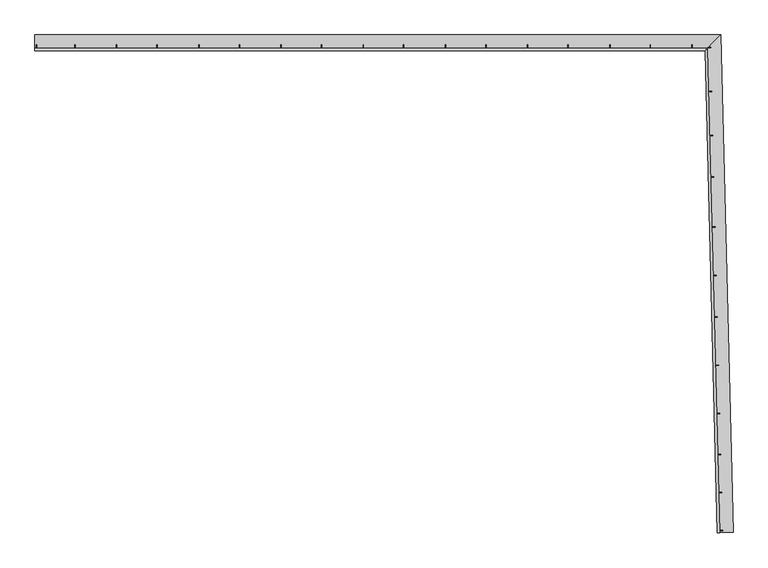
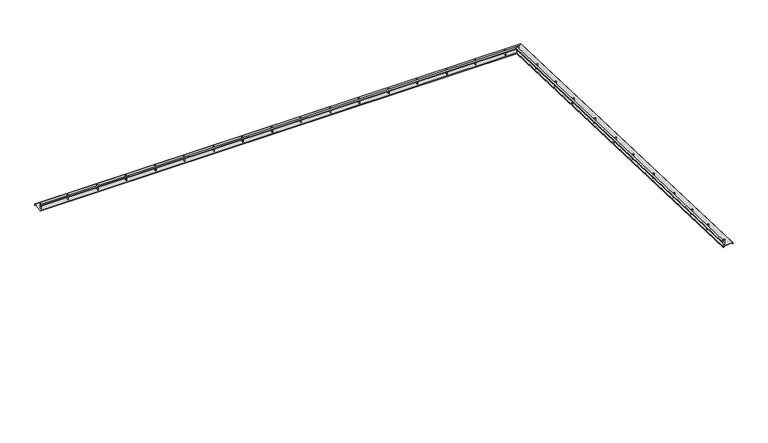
"""IFC4 building model written with IfcOpenShell, lengths in millimetres: railing geometry, Garde-corps 12 : Garde-corps 12."""

from ifc_helpers import new_model, si_unit, frame, origin, place, context, project, spatial, polyline, circle_curve, ellipse_curve, outline, extrude, faceted_brep, source, transform, mapped, element, save
from ifc_brep_helpers import plane_surface, cylinder_surface, advanced_brep


def railing_0156e3af(model_context):
    return source(origin(), model_context, "Body", "SolidModel", [
        extrude(outline(polyline([(26169.8357506, 10451.1798097), (26159.8357506, 10451.1798097), (26159.8357506, 10501.1798097), (26169.8357506, 10501.1798097), (26169.8357506, 10451.1798097)])), frame((0.0, 0.0, 6832.3587747), z_axis=(0.0, 0.0, 1.0), x_axis=(1.0, 0.0, 0.0)), (0.0, 0.0, 1.0), 157.6412253),
        extrude(outline(polyline([(25269.8357506, 10451.1798097), (25259.8357506, 10451.1798097), (25259.8357506, 10501.1798097), (25269.8357506, 10501.1798097), (25269.8357506, 10451.1798097)])), frame((0.0, 0.0, 6832.3587747), z_axis=(0.0, 0.0, 1.0), x_axis=(1.0, 0.0, 0.0)), (0.0, 0.0, 1.0), 157.6412253),
        extrude(outline(polyline([(24396.5357506, 10451.1798097), (24386.5357506, 10451.1798097), (24386.5357506, 10501.1798097), (24396.5357506, 10501.1798097), (24396.5357506, 10451.1798097)])), frame((0.0, 0.0, 6832.3587747), z_axis=(0.0, 0.0, 1.0), x_axis=(1.0, 0.0, 0.0)), (0.0, 0.0, 1.0), 157.6412253),
        extrude(outline(polyline([(23496.5357506, 10451.1798097), (23486.5357506, 10451.1798097), (23486.5357506, 10501.1798097), (23496.5357506, 10501.1798097), (23496.5357506, 10451.1798097)])), frame((0.0, 0.0, 6832.3587747), z_axis=(0.0, 0.0, 1.0), x_axis=(1.0, 0.0, 0.0)), (0.0, 0.0, 1.0), 157.6412253),
        extrude(outline(polyline([(22623.2357506, 10451.1798097), (22613.2357506, 10451.1798097), (22613.2357506, 10501.1798097), (22623.2357506, 10501.1798097), (22623.2357506, 10451.1798097)])), frame((0.0, 0.0, 6832.3587747), z_axis=(0.0, 0.0, 1.0), x_axis=(1.0, 0.0, 0.0)), (0.0, 0.0, 1.0), 157.6412253),
        extrude(outline(polyline([(21723.2357506, 10451.1798097), (21713.2357506, 10451.1798097), (21713.2357506, 10501.1798097), (21723.2357506, 10501.1798097), (21723.2357506, 10451.1798097)])), frame((0.0, 0.0, 6832.3587747), z_axis=(0.0, 0.0, 1.0), x_axis=(1.0, 0.0, 0.0)), (0.0, 0.0, 1.0), 157.6412253),
        extrude(outline(polyline([(20849.9357506, 10451.1798097), (20839.9357506, 10451.1798097), (20839.9357506, 10501.1798097), (20849.9357506, 10501.1798097), (20849.9357506, 10451.1798097)])), frame((0.0, 0.0, 6832.3587747), z_axis=(0.0, 0.0, 1.0), x_axis=(1.0, 0.0, 0.0)), (0.0, 0.0, 1.0), 157.6412253),
        extrude(outline(polyline([(19949.9357506, 10451.1798097), (19939.9357506, 10451.1798097), (19939.9357506, 10501.1798097), (19949.9357506, 10501.1798097), (19949.9357506, 10451.1798097)])), frame((0.0, 0.0, 6832.3587747), z_axis=(0.0, 0.0, 1.0), x_axis=(1.0, 0.0, 0.0)), (0.0, 0.0, 1.0), 157.6412253),
        extrude(outline(polyline([(19076.6357506, 10451.1798097), (19066.6357506, 10451.1798097), (19066.6357506, 10501.1798097), (19076.6357506, 10501.1798097), (19076.6357506, 10451.1798097)])), frame((0.0, 0.0, 6832.3587747), z_axis=(0.0, 0.0, 1.0), x_axis=(1.0, 0.0, 0.0)), (0.0, 0.0, 1.0), 157.6412253),
        extrude(outline(polyline([(18176.6357506, 10451.1798097), (18166.6357506, 10451.1798097), (18166.6357506, 10501.1798097), (18176.6357506, 10501.1798097), (18176.6357506, 10451.1798097)])), frame((0.0, 0.0, 6832.3587747), z_axis=(0.0, 0.0, 1.0), x_axis=(1.0, 0.0, 0.0)), (0.0, 0.0, 1.0), 157.6412253),
        extrude(outline(polyline([(17303.3357506, 10451.1798097), (17293.3357506, 10451.1798097), (17293.3357506, 10501.1798097), (17303.3357506, 10501.1798097), (17303.3357506, 10451.1798097)])), frame((0.0, 0.0, 6832.3587747), z_axis=(0.0, 0.0, 1.0), x_axis=(1.0, 0.0, 0.0)), (0.0, 0.0, 1.0), 157.6412253),
        extrude(outline(polyline([(16403.3357506, 10451.1798097), (16393.3357506, 10451.1798097), (16393.3357506, 10501.1798097), (16403.3357506, 10501.1798097), (16403.3357506, 10451.1798097)])), frame((0.0, 0.0, 6832.3587747), z_axis=(0.0, 0.0, 1.0), x_axis=(1.0, 0.0, 0.0)), (0.0, 0.0, 1.0), 157.6412253),
        extrude(outline(polyline([(15530.0357506, 10451.1798097), (15520.0357506, 10451.1798097), (15520.0357506, 10501.1798097), (15530.0357506, 10501.1798097), (15530.0357506, 10451.1798097)])), frame((0.0, 0.0, 6832.3587747), z_axis=(0.0, 0.0, 1.0), x_axis=(1.0, 0.0, 0.0)), (0.0, 0.0, 1.0), 157.6412253),
        extrude(outline(polyline([(14630.0357506, 10451.1798097), (14620.0357506, 10451.1798097), (14620.0357506, 10501.1798097), (14630.0357506, 10501.1798097), (14630.0357506, 10451.1798097)])), frame((0.0, 0.0, 6832.3587747), z_axis=(0.0, 0.0, 1.0), x_axis=(1.0, 0.0, 0.0)), (0.0, 0.0, 1.0), 157.6412253),
        extrude(outline(polyline([(13756.7357506, 10451.1798097), (13746.7357506, 10451.1798097), (13746.7357506, 10501.1798097), (13756.7357506, 10501.1798097), (13756.7357506, 10451.1798097)])), frame((0.0, 0.0, 6832.3587747), z_axis=(0.0, 0.0, 1.0), x_axis=(1.0, 0.0, 0.0)), (0.0, 0.0, 1.0), 157.6412253),
        extrude(outline(polyline([(12856.7357506, 10451.1798097), (12846.7357506, 10451.1798097), (12846.7357506, 10501.1798097), (12856.7357506, 10501.1798097), (12856.7357506, 10451.1798097)])), frame((0.0, 0.0, 6832.3587747), z_axis=(0.0, 0.0, 1.0), x_axis=(1.0, 0.0, 0.0)), (0.0, 0.0, 1.0), 157.6412253),
        extrude(outline(polyline([(12029.6373012, 10451.1798097), (12019.6373012, 10451.1798097), (12019.6373012, 10501.1798097), (12029.6373012, 10501.1798097), (12029.6373012, 10451.1798097)])), frame((0.0, 0.0, 6832.3587747), z_axis=(0.0, 0.0, 1.0), x_axis=(1.0, 0.0, 0.0)), (0.0, 0.0, 1.0), 157.6412253),
        extrude(outline(polyline([(26739.0073733, 1654.328646), (26738.7574514, 1664.3255225), (26788.7418337, 1665.575132), (26788.9917556, 1655.5782555), (26739.0073733, 1654.328646)])), frame((0.0, 0.0, 6832.3587747), z_axis=(0.0, 0.0, 1.0), x_axis=(1.0, 0.0, 0.0)), (0.0, 0.0, 1.0), 158.7813053),
        extrude(outline(polyline([(26779.9468021, 16.7514946), (26779.6968802, 26.7483711), (26829.6812625, 27.9979806), (26829.9311844, 18.0011042), (26779.9468021, 16.7514946)])), frame((0.0, 0.0, 6832.3587747), z_axis=(0.0, 0.0, 1.0), x_axis=(1.0, 0.0, 0.0)), (0.0, 0.0, 1.0), 158.7813053),
        extrude(outline(polyline([(26716.7643232, 2544.0506513), (26716.5144012, 2554.0475278), (26766.4987836, 2555.2971373), (26766.7487055, 2545.3002609), (26716.7643232, 2544.0506513)])), frame((0.0, 0.0, 6832.3587747), z_axis=(0.0, 0.0, 1.0), x_axis=(1.0, 0.0, 0.0)), (0.0, 0.0, 1.0), 158.7813053),
        extrude(outline(polyline([(26664.7807217, 4623.3947087), (26664.5307998, 4633.3915852), (26714.5151821, 4634.6411948), (26714.765104, 4624.6443183), (26664.7807217, 4623.3947087)])), frame((0.0, 0.0, 6832.3587747), z_axis=(0.0, 0.0, 1.0), x_axis=(1.0, 0.0, 0.0)), (0.0, 0.0, 1.0), 158.7813053),
        extrude(outline(polyline([(26642.2877497, 5523.1135905), (26642.0378278, 5533.110467), (26692.0222101, 5534.3600765), (26692.272132, 5524.3632001), (26642.2877497, 5523.1135905)])), frame((0.0, 0.0, 6832.3587747), z_axis=(0.0, 0.0, 1.0), x_axis=(1.0, 0.0, 0.0)), (0.0, 0.0, 1.0), 158.7813053),
        extrude(outline(polyline([(26589.3041482, 7642.457648), (26589.0542263, 7652.4545244), (26639.0386086, 7653.704134), (26639.2885306, 7643.7072575), (26589.3041482, 7642.457648)])), frame((0.0, 0.0, 6832.3587747), z_axis=(0.0, 0.0, 1.0), x_axis=(1.0, 0.0, 0.0)), (0.0, 0.0, 1.0), 158.7813053),
        extrude(outline(polyline([(26566.8111762, 8542.1765297), (26566.5612543, 8552.1734062), (26616.5456366, 8553.4230158), (26616.7955585, 8543.4261393), (26566.8111762, 8542.1765297)])), frame((0.0, 0.0, 6832.3587747), z_axis=(0.0, 0.0, 1.0), x_axis=(1.0, 0.0, 0.0)), (0.0, 0.0, 1.0), 158.7813053),
        extrude(outline(polyline([(26519.326013, 10441.5830579), (26519.0760911, 10451.5799344), (26569.0604734, 10452.8295439), (26569.3103953, 10442.8326675), (26519.326013, 10441.5830579)])), frame((0.0, 0.0, 6832.3587747), z_axis=(0.0, 0.0, 1.0), x_axis=(1.0, 0.0, 0.0)), (0.0, 0.0, 1.0), 158.7813053),
        extrude(outline(polyline([(26690.7725224, 3583.72268), (26690.5226005, 3593.7195565), (26740.5069828, 3594.969166), (26740.7569048, 3584.9722896), (26690.7725224, 3583.72268)])), frame((0.0, 0.0, 6832.3587747), z_axis=(0.0, 0.0, 1.0), x_axis=(1.0, 0.0, 0.0)), (0.0, 0.0, 1.0), 158.7813053),
        extrude(outline(polyline([(26616.2958709, 6562.7887428), (26616.045949, 6572.7856192), (26666.0303313, 6574.0352288), (26666.2802532, 6564.0383523), (26616.2958709, 6562.7887428)])), frame((0.0, 0.0, 6832.3587747), z_axis=(0.0, 0.0, 1.0), x_axis=(1.0, 0.0, 0.0)), (0.0, 0.0, 1.0), 158.7813053),
        extrude(outline(polyline([(26543.0685946, 9491.8797938), (26542.8186727, 9501.8766703), (26592.803055, 9503.1262799), (26593.0529769, 9493.1294034), (26543.0685946, 9491.8797938)])), frame((0.0, 0.0, 6832.3587747), z_axis=(0.0, 0.0, 1.0), x_axis=(1.0, 0.0, 0.0)), (0.0, 0.0, 1.0), 158.7813053),
        extrude(outline(polyline([(26759.4770877, 835.5400703), (26759.2271658, 845.5369468), (26809.2115481, 846.7865563), (26809.46147, 836.7896799), (26759.4770877, 835.5400703)])), frame((0.0, 0.0, 6832.3587747), z_axis=(0.0, 0.0, 1.0), x_axis=(1.0, 0.0, 0.0)), (0.0, 0.0, 1.0), 158.7813053),
        faceted_brep([(26761.0662175, -26.2494266, 6811.6891365), (27050.9250252, -19.0029564, 6832.3587747), (27050.9250252, -19.0029564, 6782.3587747), (27051.9247128, -18.9779642, 6782.3587747), (27051.9247128, -18.9779642, 6833.4325995), (26760.0665298, -26.2744188, 6812.6203871), (26760.0665298, -26.2744188, 6781.6891365), (26761.0662175, -26.2494266, 6781.6891365), (26499.7510969, 10426.3553963, 6811.6891365), (26782.542332, 10716.3047707, 6832.3587747), (26782.542332, 10716.3047707, 6782.3587747), (11987.3716397, 10716.3047707, 6782.3587747), (11987.3716397, 10717.3047707, 6782.3587747), (26783.5176444, 10717.3047707, 6782.3587747), (26783.5176444, 10717.3047707, 6833.4325995), (26498.7757844, 10425.3553963, 6812.6203871), (26498.7757844, 10425.3553963, 6781.6891365), (11987.3716397, 10425.3553963, 6781.6891365), (11987.3716397, 10426.3553963, 6781.6891365), (26499.7510969, 10426.3553963, 6781.6891365), (11987.3716397, 10426.3553963, 6811.6891365), (11987.3716397, 10425.3553963, 6812.6203871), (11987.3716397, 10717.3047707, 6833.4325995), (11987.3716397, 10716.3047707, 6832.3587747)], [[[0, 1, 2, 3, 4, 5, 6, 7]], [[1, 0, 8, 9]], [[2, 1, 9, 10]], [[3, 2, 10, 11, 12, 13]], [[4, 3, 13, 14]], [[5, 4, 14, 15]], [[6, 5, 15, 16]], [[7, 6, 16, 17, 18, 19]], [[0, 7, 19, 8]], [[20, 18, 17, 21, 22, 12, 11, 23]], [[9, 8, 20, 23]], [[10, 9, 23, 11]], [[14, 13, 12, 22]], [[15, 14, 22, 21]], [[16, 15, 21, 17]], [[8, 19, 18, 20]]]),
        advanced_brep(
        [(26758.8432522, -26.3050007, 6992.3587747), (26708.8588699, -27.5546103, 6992.3587747), (26497.5823338, 10424.1317365, 6992.3587747), (26448.8167112, 10374.1317365, 6992.3587747), (11987.3716397, 10424.1317365, 6992.3587747), (11987.3716397, 10374.1317365, 6992.3587747)],
        [
            (0, 1, circle_curve(frame((26733.8510611, -26.9298055, 6992.3587747), z_axis=(0.024992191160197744, -0.9996876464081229, 0.0), x_axis=(-0.9996876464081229, -0.024992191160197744, 0.0)), 25.0)),
            (1, 0, circle_curve(frame((26733.8510611, -26.9298055, 6992.3587747), z_axis=(0.024992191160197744, -0.9996876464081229, 0.0), x_axis=(-0.9996876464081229, -0.024992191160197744, 0.0)), 25.0)),
            (0, 2),
            (2, 3, ellipse_curve(frame((26473.1995225, 10399.1317365, 6992.3587747), z_axis=(0.7158883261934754, -0.6982147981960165, 0.0), x_axis=(-0.6982147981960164, -0.7158883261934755, 0.0)), 34.9216478, 25.0)),
            (3, 1),
            (3, 2, ellipse_curve(frame((26473.1995225, 10399.1317365, 6992.3587747), z_axis=(0.7158883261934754, -0.6982147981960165, 0.0), x_axis=(-0.6982147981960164, -0.7158883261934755, 0.0)), 34.9216478, 25.0)),
            (4, 5, circle_curve(frame((11987.3716397, 10399.1317365, 6992.3587747), z_axis=(-1.0, 0.0, 0.0), x_axis=(0.0, -1.0, 0.0)), 25.0)),
            (5, 4, circle_curve(frame((11987.3716397, 10399.1317365, 6992.3587747), z_axis=(-1.0, 0.0, 0.0), x_axis=(0.0, -1.0, 0.0)), 25.0)),
            (2, 4),
            (5, 3),
        ],
        [
            plane_surface(frame((26781.0093606, -25.750848, 6832.3587747), z_axis=(0.024992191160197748, -0.999687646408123, 0.0), x_axis=(0.0, 0.0, 1.0))),
            cylinder_surface(frame((26733.8510611, -26.9298055, 6992.3587747), z_axis=(0.024992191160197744, -0.9996876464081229, 0.0), x_axis=(-0.9996876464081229, -0.024992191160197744, 0.0)), 25.0),
            plane_surface(frame((11987.3716397, 10446.3047707, 6832.3587747), z_axis=(-1.0, 0.0, 0.0), x_axis=(0.0, 0.0, 1.0))),
            cylinder_surface(frame((26519.2079702, 10399.1317365, 6992.3587747), z_axis=(1.0, 0.0, 0.0), x_axis=(0.0, -1.0, 0.0)), 25.0),
        ],
        [
            (0, [[1, 2]]),
            (1, [[-1, 3, 4, 5]]),
            (1, [[-2, -5, 6, -3]]),
            (2, [[7, 8]]),
            (3, [[-4, 9, -8, 10]]),
            (3, [[-6, -10, -7, -9]]),
        ],
    ),
    ])


if __name__ == "__main__":
    model = new_model("IFC4")
    model_context = context("Model", 3, world=origin())
    ifc_project = project(units=[si_unit("LENGTHUNIT", "METRE", prefix="MILLI")], contexts=[model_context])
    site = spatial("IfcSite", under=ifc_project)
    building = spatial("IfcBuilding", under=site)
    placement = place(None, origin())
    railing_shape = railing_0156e3af(model_context)
    element("IfcRailing", 1, ObjectType="Garde-corps 12 : Garde-corps 12", at=placement, inside=building, context=model_context, shape_type="MappedRepresentation", body=[
        mapped(railing_shape, transform((0.0, 0.0, 0.0), x_axis=(1.0, 0.0, 0.0), y_axis=(0.0, 1.0, 0.0), z_axis=(0.0, 0.0, 1.0))),
    ])
    save(model, "model.ifc")
